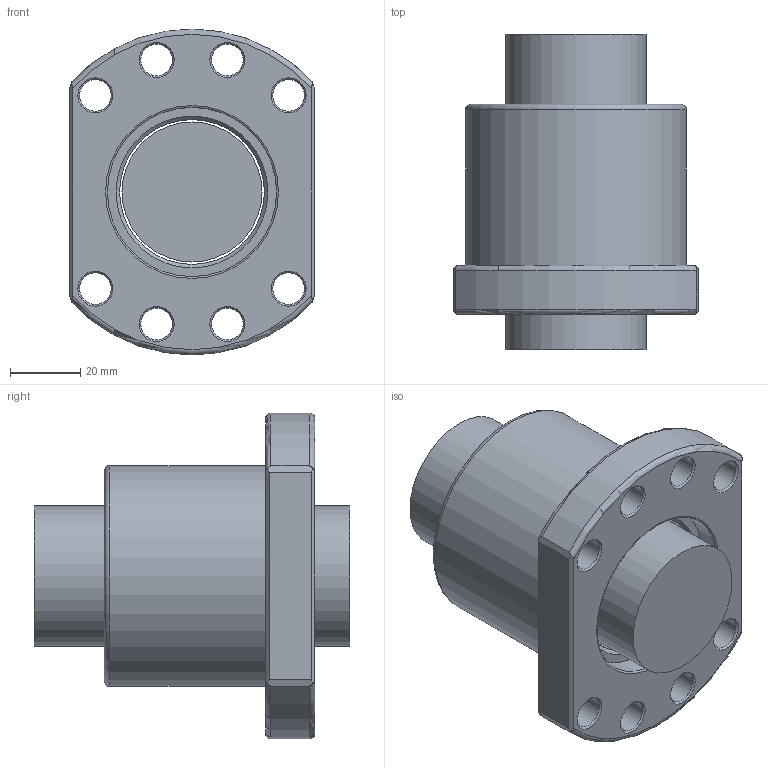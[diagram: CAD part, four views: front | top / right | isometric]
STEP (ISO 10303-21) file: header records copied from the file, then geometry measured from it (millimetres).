
FILE_DESCRIPTION(/* description */ (''),/* implementation_level */ '2;1');
FILE_NAME(/* name */ '4006.prt.step',/* time_stamp */ '2008-12-05T16:32:19+08:00',/* author */ (''),/* organization */ (''),/* preprocessor_version */ 'ST-DEVELOPER v11',/* originating_system */ 'SIEMENS UGS NX 6.0',/* authorisation */ '');
FILE_SCHEMA (('AUTOMOTIVE_DESIGN { 1 0 10303 214 1 1 1 1 }'));
Length unit declared in the file: millimetre
Products named in the file (1): 4006
Bounding box: 70 x 90 x 93 mm (x, y, z)
Volume: 243202.7 mm3; surface area: 45213.7 mm2
Topology: 2 solids, 2 shells, 57 faces, 132 edges, 82 vertices
Faces by surface type: cone 18, plane 17, cylinder 15, torus 7
Full cylindrical faces by diameter (mm): 9 x8, 39.95 x1, 41.3 x1, 48.3 x2, 63 x1
Entity records: 1694 total; most frequent: CARTESIAN_POINT 472, DIRECTION 250, ORIENTED_EDGE 190, AXIS2_PLACEMENT_3D 113, EDGE_LOOP 112, EDGE_CURVE 95, FACE_BOUND 94, VERTEX_POINT 79
